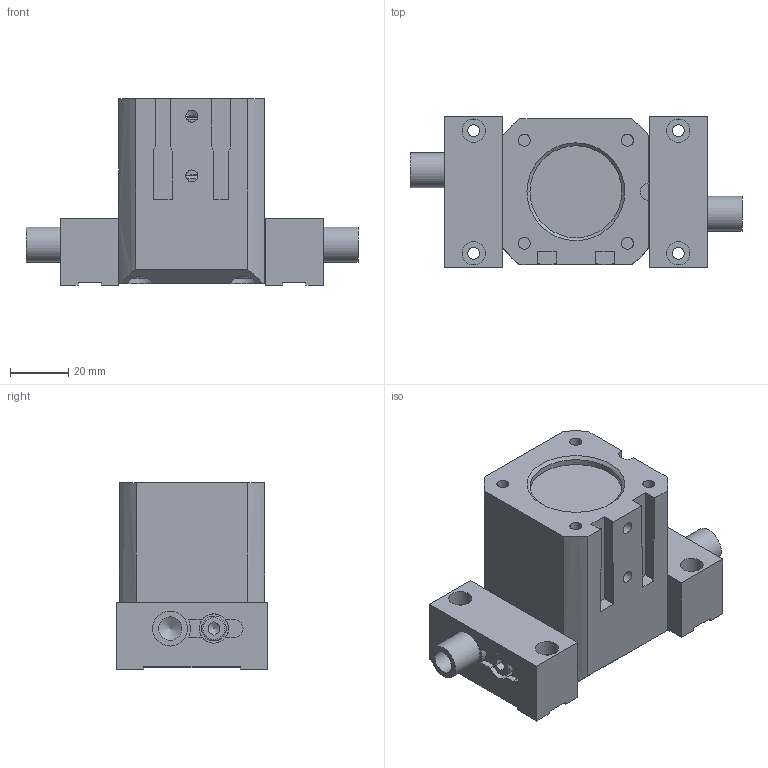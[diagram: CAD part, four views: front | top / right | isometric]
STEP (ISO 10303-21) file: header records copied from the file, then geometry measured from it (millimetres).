
FILE_DESCRIPTION((''),'2;1');
FILE_NAME('T:\CAD\Standard\Daten\3D-Datenbank\GP\4 - 3D-CAD-Daten GP 050-125\GP063\step-Daten\G-GP063-l2-GS+UB closed.stp','2013-11-07T14:58:50',('Dirk'),(''),'Autodesk Inventor 2011','Autodesk Inventor 2011','');
FILE_SCHEMA(('AUTOMOTIVE_DESIGN { 1 0 10303 214 1 1 1 1 }'));
Length unit declared in the file: millimetre
Products named in the file (1): Bauteil95
Bounding box: 113.75 x 52 x 64 mm (x, y, z)
Volume: 168379.2 mm3; surface area: 56982.9 mm2
Topology: 1 solids, 16 shells, 401 faces, 1043 edges, 677 vertices
Faces by surface type: plane 232, cylinder 112, cone 34, torus 22, bspline 1
Full cylindrical faces by diameter (mm): 2.459 x2, 4.134 x12, 5 x2, 5.5 x2, 6.647 x1, 8 x7, 8.5 x7, 10 x8, 12 x8, 14 x7, 16 x2, 18.6 x2, 21.1 x2, 25 x1, 28.9 x2, 31.5 x1, 33 x1, 33.6 x2, 35.5 x2, 40 x5
Entity records: 12741 total; most frequent: CARTESIAN_POINT 3400, DIRECTION 1838, ORIENTED_EDGE 1662, EDGE_CURVE 831, AXIS2_PLACEMENT_3D 703, VERTEX_POINT 597, EDGE_LOOP 597, VECTOR 432
